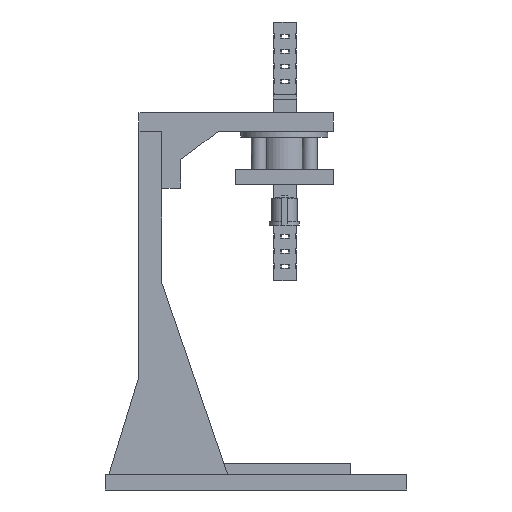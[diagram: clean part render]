
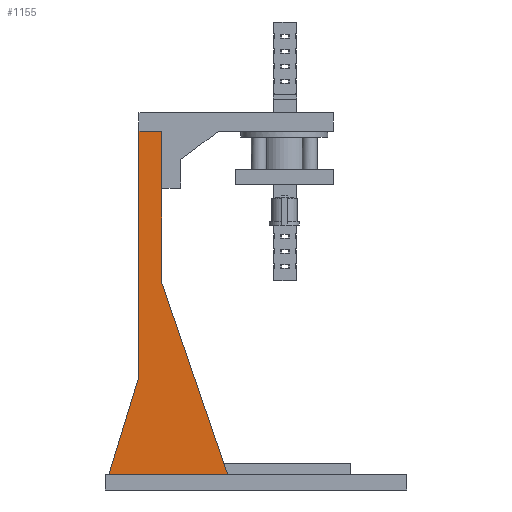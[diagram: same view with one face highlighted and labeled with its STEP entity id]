
A CAD part, left-side view. The second image highlights one B-rep face of the part: STEP entity #1155.
In plain terms, the highlighted planar face has unit normal (-1, 0, 0).
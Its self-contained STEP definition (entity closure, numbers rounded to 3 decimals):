
#212 = PLANE('',#213);
#213 = AXIS2_PLACEMENT_3D('',#214,#215,#216);
#214 = CARTESIAN_POINT('',(0.,0.,8.));
#215 = DIRECTION('',(0.,0.,1.));
#216 = DIRECTION('',(1.,0.,0.));
#466 = VERTEX_POINT('',#467);
#467 = CARTESIAN_POINT('',(45.,95.,8.));
#483 = PLANE('',#484);
#484 = AXIS2_PLACEMENT_3D('',#485,#486,#487);
#485 = CARTESIAN_POINT('',(45.,130.,110.));
#486 = DIRECTION('',(0.,0.946,-0.325));
#487 = DIRECTION('',(0.,-0.325,-0.946));
#495 = EDGE_CURVE('',#466,#496,#498,.T.);
#496 = VERTEX_POINT('',#497);
#497 = CARTESIAN_POINT('',(45.,158.,8.));
#498 = SURFACE_CURVE('',#499,(#503,#510),.PCURVE_S1.);
#499 = LINE('',#500,#501);
#500 = CARTESIAN_POINT('',(45.,95.,8.));
#501 = VECTOR('',#502,1.);
#502 = DIRECTION('',(0.,1.,0.));
#503 = PCURVE('',#212,#504);
#504 = DEFINITIONAL_REPRESENTATION('',(#505),#509);
#505 = LINE('',#506,#507);
#506 = CARTESIAN_POINT('',(45.,95.));
#507 = VECTOR('',#508,1.);
#508 = DIRECTION('',(0.,1.));
#509 = ( GEOMETRIC_REPRESENTATION_CONTEXT(2) 
PARAMETRIC_REPRESENTATION_CONTEXT() REPRESENTATION_CONTEXT('2D SPACE',''
  ) );
#510 = PCURVE('',#511,#516);
#511 = PLANE('',#512);
#512 = AXIS2_PLACEMENT_3D('',#513,#514,#515);
#513 = CARTESIAN_POINT('',(45.,146.601,30.601));
#514 = DIRECTION('',(1.,0.,0.));
#515 = DIRECTION('',(-0.,0.,1.));
#516 = DEFINITIONAL_REPRESENTATION('',(#517),#521);
#517 = LINE('',#518,#519);
#518 = CARTESIAN_POINT('',(-22.601,51.601));
#519 = VECTOR('',#520,1.);
#520 = DIRECTION('',(0.,-1.));
#521 = ( GEOMETRIC_REPRESENTATION_CONTEXT(2) 
PARAMETRIC_REPRESENTATION_CONTEXT() REPRESENTATION_CONTEXT('2D SPACE',''
  ) );
#539 = PLANE('',#540);
#540 = AXIS2_PLACEMENT_3D('',#541,#542,#543);
#541 = CARTESIAN_POINT('',(45.,158.,8.));
#542 = DIRECTION('',(0.,-0.956,-0.294));
#543 = DIRECTION('',(0.,-0.294,0.956));
#595 = PLANE('',#596);
#596 = AXIS2_PLACEMENT_3D('',#597,#598,#599);
#597 = CARTESIAN_POINT('',(45.,142.,8.));
#598 = DIRECTION('',(0.,1.,0.));
#599 = DIRECTION('',(0.,0.,1.));
#763 = PLANE('',#764);
#764 = AXIS2_PLACEMENT_3D('',#765,#766,#767);
#765 = CARTESIAN_POINT('',(45.,130.,8.));
#766 = DIRECTION('',(0.,1.,0.));
#767 = DIRECTION('',(0.,0.,1.));
#1089 = VERTEX_POINT('',#1090);
#1090 = CARTESIAN_POINT('',(45.,130.,110.));
#1135 = EDGE_CURVE('',#1089,#466,#1136,.T.);
#1136 = SURFACE_CURVE('',#1137,(#1141,#1148),.PCURVE_S1.);
#1137 = LINE('',#1138,#1139);
#1138 = CARTESIAN_POINT('',(45.,130.,110.));
#1139 = VECTOR('',#1140,1.);
#1140 = DIRECTION('',(0.,-0.325,-0.946));
#1141 = PCURVE('',#483,#1142);
#1142 = DEFINITIONAL_REPRESENTATION('',(#1143),#1147);
#1143 = LINE('',#1144,#1145);
#1144 = CARTESIAN_POINT('',(0.,0.));
#1145 = VECTOR('',#1146,1.);
#1146 = DIRECTION('',(1.,0.));
#1147 = ( GEOMETRIC_REPRESENTATION_CONTEXT(2) 
PARAMETRIC_REPRESENTATION_CONTEXT() REPRESENTATION_CONTEXT('2D SPACE',''
  ) );
#1148 = PCURVE('',#511,#1149);
#1149 = DEFINITIONAL_REPRESENTATION('',(#1150),#1154);
#1150 = LINE('',#1151,#1152);
#1151 = CARTESIAN_POINT('',(79.399,16.601));
#1152 = VECTOR('',#1153,1.);
#1153 = DIRECTION('',(-0.946,0.325));
#1154 = ( GEOMETRIC_REPRESENTATION_CONTEXT(2) 
PARAMETRIC_REPRESENTATION_CONTEXT() REPRESENTATION_CONTEXT('2D SPACE',''
  ) );
#1155 = ADVANCED_FACE('',(#1156),#511,.F.);
#1156 = FACE_BOUND('',#1157,.F.);
#1157 = EDGE_LOOP('',(#1158,#1181,#1204,#1232,#1253,#1254));
#1158 = ORIENTED_EDGE('',*,*,#1159,.T.);
#1159 = EDGE_CURVE('',#496,#1160,#1162,.T.);
#1160 = VERTEX_POINT('',#1161);
#1161 = CARTESIAN_POINT('',(45.,142.,60.));
#1162 = SURFACE_CURVE('',#1163,(#1167,#1174),.PCURVE_S1.);
#1163 = LINE('',#1164,#1165);
#1164 = CARTESIAN_POINT('',(45.,158.,8.));
#1165 = VECTOR('',#1166,1.);
#1166 = DIRECTION('',(0.,-0.294,0.956));
#1167 = PCURVE('',#511,#1168);
#1168 = DEFINITIONAL_REPRESENTATION('',(#1169),#1173);
#1169 = LINE('',#1170,#1171);
#1170 = CARTESIAN_POINT('',(-22.601,-11.399));
#1171 = VECTOR('',#1172,1.);
#1172 = DIRECTION('',(0.956,0.294));
#1173 = ( GEOMETRIC_REPRESENTATION_CONTEXT(2) 
PARAMETRIC_REPRESENTATION_CONTEXT() REPRESENTATION_CONTEXT('2D SPACE',''
  ) );
#1174 = PCURVE('',#539,#1175);
#1175 = DEFINITIONAL_REPRESENTATION('',(#1176),#1180);
#1176 = LINE('',#1177,#1178);
#1177 = CARTESIAN_POINT('',(0.,0.));
#1178 = VECTOR('',#1179,1.);
#1179 = DIRECTION('',(1.,0.));
#1180 = ( GEOMETRIC_REPRESENTATION_CONTEXT(2) 
PARAMETRIC_REPRESENTATION_CONTEXT() REPRESENTATION_CONTEXT('2D SPACE',''
  ) );
#1181 = ORIENTED_EDGE('',*,*,#1182,.T.);
#1182 = EDGE_CURVE('',#1160,#1183,#1185,.T.);
#1183 = VERTEX_POINT('',#1184);
#1184 = CARTESIAN_POINT('',(45.,142.,190.));
#1185 = SURFACE_CURVE('',#1186,(#1190,#1197),.PCURVE_S1.);
#1186 = LINE('',#1187,#1188);
#1187 = CARTESIAN_POINT('',(45.,142.,8.));
#1188 = VECTOR('',#1189,1.);
#1189 = DIRECTION('',(0.,0.,1.));
#1190 = PCURVE('',#511,#1191);
#1191 = DEFINITIONAL_REPRESENTATION('',(#1192),#1196);
#1192 = LINE('',#1193,#1194);
#1193 = CARTESIAN_POINT('',(-22.601,4.601));
#1194 = VECTOR('',#1195,1.);
#1195 = DIRECTION('',(1.,0.));
#1196 = ( GEOMETRIC_REPRESENTATION_CONTEXT(2) 
PARAMETRIC_REPRESENTATION_CONTEXT() REPRESENTATION_CONTEXT('2D SPACE',''
  ) );
#1197 = PCURVE('',#595,#1198);
#1198 = DEFINITIONAL_REPRESENTATION('',(#1199),#1203);
#1199 = LINE('',#1200,#1201);
#1200 = CARTESIAN_POINT('',(0.,0.));
#1201 = VECTOR('',#1202,1.);
#1202 = DIRECTION('',(1.,0.));
#1203 = ( GEOMETRIC_REPRESENTATION_CONTEXT(2) 
PARAMETRIC_REPRESENTATION_CONTEXT() REPRESENTATION_CONTEXT('2D SPACE',''
  ) );
#1204 = ORIENTED_EDGE('',*,*,#1205,.F.);
#1205 = EDGE_CURVE('',#1206,#1183,#1208,.T.);
#1206 = VERTEX_POINT('',#1207);
#1207 = CARTESIAN_POINT('',(45.,130.,190.));
#1208 = SURFACE_CURVE('',#1209,(#1213,#1220),.PCURVE_S1.);
#1209 = LINE('',#1210,#1211);
#1210 = CARTESIAN_POINT('',(45.,130.,190.));
#1211 = VECTOR('',#1212,1.);
#1212 = DIRECTION('',(0.,1.,0.));
#1213 = PCURVE('',#511,#1214);
#1214 = DEFINITIONAL_REPRESENTATION('',(#1215),#1219);
#1215 = LINE('',#1216,#1217);
#1216 = CARTESIAN_POINT('',(159.399,16.601));
#1217 = VECTOR('',#1218,1.);
#1218 = DIRECTION('',(0.,-1.));
#1219 = ( GEOMETRIC_REPRESENTATION_CONTEXT(2) 
PARAMETRIC_REPRESENTATION_CONTEXT() REPRESENTATION_CONTEXT('2D SPACE',''
  ) );
#1220 = PCURVE('',#1221,#1226);
#1221 = PLANE('',#1222);
#1222 = AXIS2_PLACEMENT_3D('',#1223,#1224,#1225);
#1223 = CARTESIAN_POINT('',(45.,130.,190.));
#1224 = DIRECTION('',(0.,0.,1.));
#1225 = DIRECTION('',(1.,0.,0.));
#1226 = DEFINITIONAL_REPRESENTATION('',(#1227),#1231);
#1227 = LINE('',#1228,#1229);
#1228 = CARTESIAN_POINT('',(0.,0.));
#1229 = VECTOR('',#1230,1.);
#1230 = DIRECTION('',(0.,1.));
#1231 = ( GEOMETRIC_REPRESENTATION_CONTEXT(2) 
PARAMETRIC_REPRESENTATION_CONTEXT() REPRESENTATION_CONTEXT('2D SPACE',''
  ) );
#1232 = ORIENTED_EDGE('',*,*,#1233,.F.);
#1233 = EDGE_CURVE('',#1089,#1206,#1234,.T.);
#1234 = SURFACE_CURVE('',#1235,(#1239,#1246),.PCURVE_S1.);
#1235 = LINE('',#1236,#1237);
#1236 = CARTESIAN_POINT('',(45.,130.,8.));
#1237 = VECTOR('',#1238,1.);
#1238 = DIRECTION('',(0.,0.,1.));
#1239 = PCURVE('',#511,#1240);
#1240 = DEFINITIONAL_REPRESENTATION('',(#1241),#1245);
#1241 = LINE('',#1242,#1243);
#1242 = CARTESIAN_POINT('',(-22.601,16.601));
#1243 = VECTOR('',#1244,1.);
#1244 = DIRECTION('',(1.,0.));
#1245 = ( GEOMETRIC_REPRESENTATION_CONTEXT(2) 
PARAMETRIC_REPRESENTATION_CONTEXT() REPRESENTATION_CONTEXT('2D SPACE',''
  ) );
#1246 = PCURVE('',#763,#1247);
#1247 = DEFINITIONAL_REPRESENTATION('',(#1248),#1252);
#1248 = LINE('',#1249,#1250);
#1249 = CARTESIAN_POINT('',(0.,0.));
#1250 = VECTOR('',#1251,1.);
#1251 = DIRECTION('',(1.,0.));
#1252 = ( GEOMETRIC_REPRESENTATION_CONTEXT(2) 
PARAMETRIC_REPRESENTATION_CONTEXT() REPRESENTATION_CONTEXT('2D SPACE',''
  ) );
#1253 = ORIENTED_EDGE('',*,*,#1135,.T.);
#1254 = ORIENTED_EDGE('',*,*,#495,.T.);
